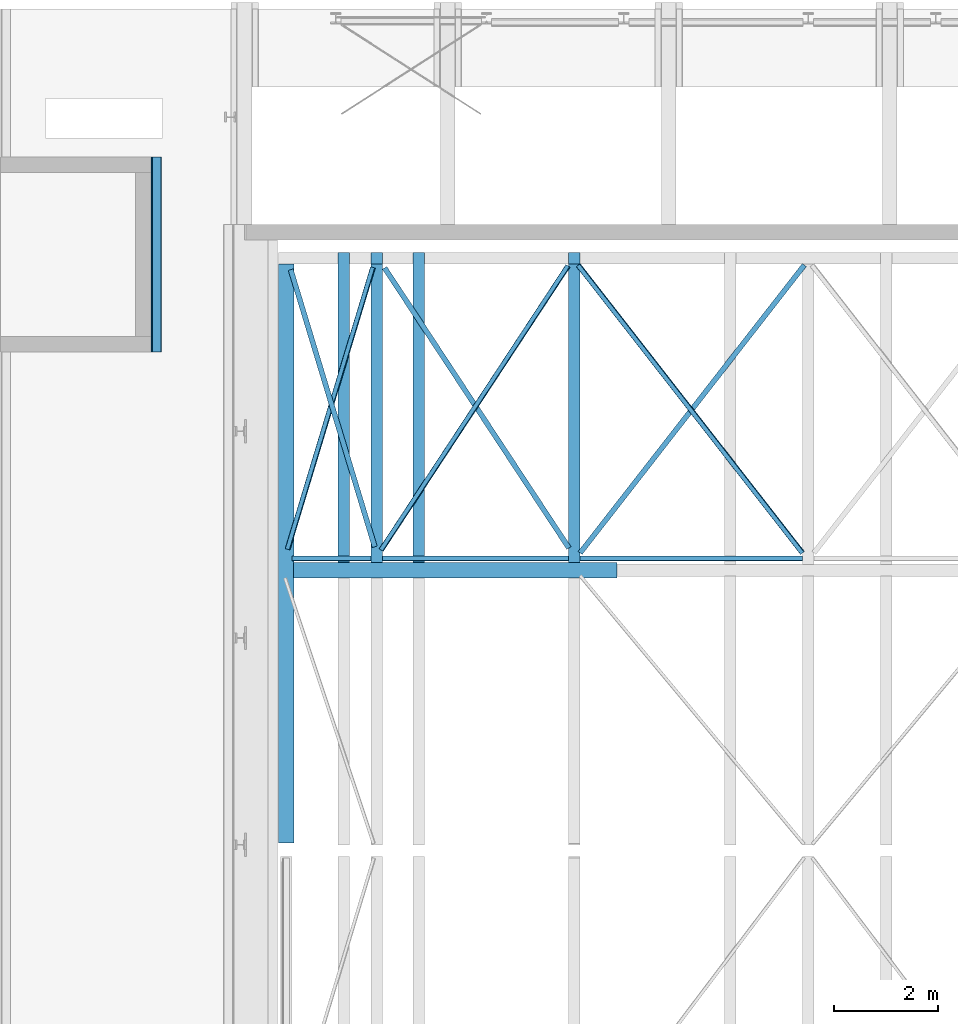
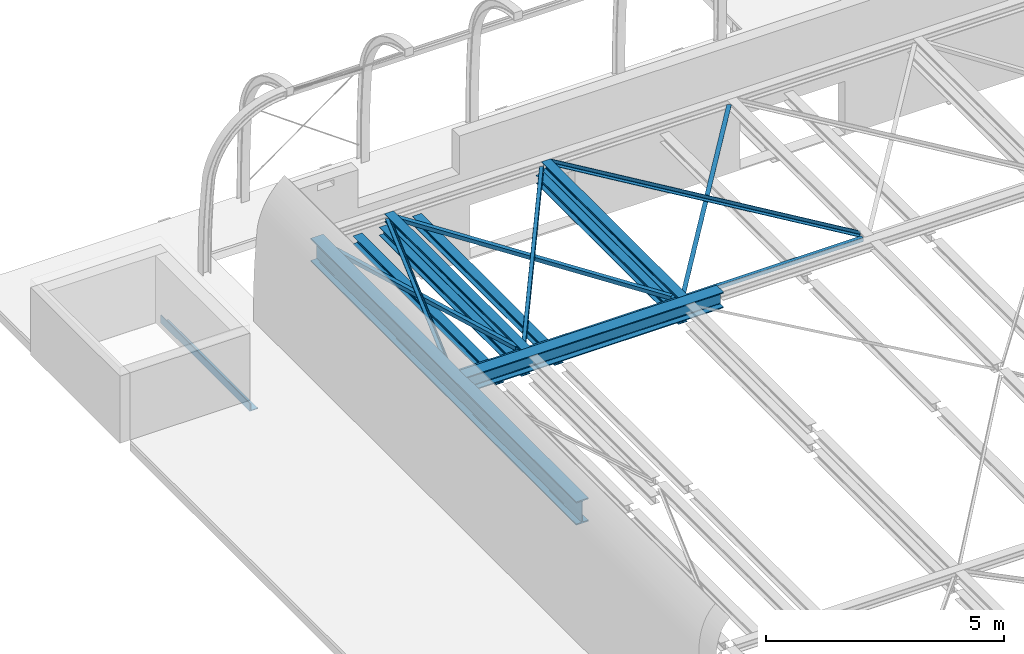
# One storey, part 15 of 38: 18 beams.
"""IFC2X3 building model written with IfcOpenShell, lengths in millimetres."""

from ifc_helpers import new_model, entity, si_unit, converted_unit, derived_unit, direction, frame, frame_2d, origin, place, context, subcontext, project, spatial, polyline, circle_curve, parameter, trimmed, segment, composite_curve, i_section, outline, extrude, material, type_object, element, save


model = new_model("IFC2X3")

# Units and contexts
model_context = context("Model", 3, precision=0.01, world=origin(), true_north=direction((6.12303176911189e-17, 1.0)))
body_context = subcontext(model_context, "Body", "Model", "MODEL_VIEW")
ifc_project = project(units=[si_unit("LENGTHUNIT", "METRE", prefix="MILLI"), si_unit("AREAUNIT", "SQUARE_METRE", prefix="MILLI"), si_unit("VOLUMEUNIT", "CUBIC_METRE"), converted_unit("PLANEANGLEUNIT", "DEGREE", entity("IfcRatioMeasure", 0.0174532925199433), si_unit("PLANEANGLEUNIT", "RADIAN"), dimensions=[0, 0, 0, 0, 0, 0, 0]), si_unit("MASSUNIT", "GRAM", prefix="KILO"), derived_unit("MASSDENSITYUNIT", [(si_unit("MASSUNIT", "GRAM", prefix="KILO"), 1), (si_unit("LENGTHUNIT", "METRE"), -3)]), derived_unit("MOMENTOFINERTIAUNIT", [(si_unit("LENGTHUNIT", "METRE"), 4)]), si_unit("TIMEUNIT", "SECOND"), si_unit("FREQUENCYUNIT", "HERTZ"), si_unit("THERMODYNAMICTEMPERATUREUNIT", "DEGREE_CELSIUS"), derived_unit("THERMALTRANSMITTANCEUNIT", [(si_unit("MASSUNIT", "GRAM", prefix="KILO"), 1), (si_unit("THERMODYNAMICTEMPERATUREUNIT", "KELVIN"), -1), (si_unit("TIMEUNIT", "SECOND"), -3)]), derived_unit("VOLUMETRICFLOWRATEUNIT", [(si_unit("LENGTHUNIT", "METRE"), 3), (si_unit("TIMEUNIT", "SECOND"), -1)]), si_unit("ELECTRICCURRENTUNIT", "AMPERE"), si_unit("ELECTRICVOLTAGEUNIT", "VOLT"), si_unit("POWERUNIT", "WATT"), si_unit("FORCEUNIT", "NEWTON", prefix="KILO"), si_unit("ILLUMINANCEUNIT", "LUX"), si_unit("LUMINOUSFLUXUNIT", "LUMEN"), si_unit("LUMINOUSINTENSITYUNIT", "CANDELA"), derived_unit("USERDEFINED", [(si_unit("MASSUNIT", "GRAM", prefix="KILO"), -1), (si_unit("LENGTHUNIT", "METRE"), -2), (si_unit("TIMEUNIT", "SECOND"), 3), (si_unit("LUMINOUSFLUXUNIT", "LUMEN"), 1)]), derived_unit("LINEARVELOCITYUNIT", [(si_unit("LENGTHUNIT", "METRE"), 1), (si_unit("TIMEUNIT", "SECOND"), -1)]), si_unit("PRESSUREUNIT", "PASCAL"), derived_unit("USERDEFINED", [(si_unit("LENGTHUNIT", "METRE"), -2), (si_unit("MASSUNIT", "GRAM", prefix="KILO"), 1), (si_unit("TIMEUNIT", "SECOND"), -2)]), derived_unit("LINEARFORCEUNIT", [(si_unit("MASSUNIT", "GRAM", prefix="KILO"), 1), (si_unit("LENGTHUNIT", "METRE"), 1), (si_unit("TIMEUNIT", "SECOND"), -2), (si_unit("LENGTHUNIT", "METRE"), -1)]), derived_unit("PLANARFORCEUNIT", [(si_unit("MASSUNIT", "GRAM", prefix="KILO"), 1), (si_unit("LENGTHUNIT", "METRE"), 1), (si_unit("TIMEUNIT", "SECOND"), -2), (si_unit("LENGTHUNIT", "METRE"), -2)])], contexts=[model_context])

# Site, building, storey
site_placement = place(None, origin())
site = spatial("IfcSite", under=ifc_project, at=site_placement, Name="Theater aan de Parade", CompositionType="ELEMENT")
building_placement = place(site_placement, origin())
building = spatial("IfcBuilding", under=site, at=building_placement, Name="Theater aan de Parade", CompositionType="ELEMENT")
storey_placement = place(building_placement, frame((0.0, 0.0, 12480.0)))
storey = spatial("IfcBuildingStorey", under=building, at=storey_placement, Name="03 derde verdieping", CompositionType="ELEMENT", Elevation=12480.0)

# Beams
ifc_material = material(Name="00_PBT_MAT_staal_S355")
beam_type_1 = type_object("IfcBeamType", Name="28_PBT_SF_staal_H-profiel:S355_HE220A", PredefinedType="NOTDEFINED")
beam_1_placement = place(storey_placement, frame((17801.8563463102, 40813.3083270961, 1930.0), z_axis=(0.0, 0.0, 1.0), x_axis=(0.0, -1.0, 0.0)))
element("IfcBeam", 1, at=beam_1_placement, inside=storey, type_object=beam_type_1, material=ifc_material, Name="28_PBT_SF_staal_H-profiel:S355_HE220A", ObjectType="28_PBT_SF_staal_H-profiel:S355_HE220A", context=body_context, shape_type="SweptSolid", body=[
    extrude(i_section(OverallWidth=220.0, OverallDepth=210.0, WebThickness=7.00000000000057, FlangeThickness=10.9999999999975, FilletRadius=18.0000000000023, at=frame_2d((0.0, -1.08002495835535e-12), x_axis=(0.0, 1.0))), frame((0.0, 0.0, -105.0), z_axis=(1.0, 0.0, 0.0), x_axis=(0.0, 0.0, -1.0)), (0.0, 0.0, 1.0), 5745.01602859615),
])
beam_2_placement = place(storey_placement, frame((21603.8563463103, 40813.3083270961, 1930.0), z_axis=(0.0, 0.0, 1.0), x_axis=(0.0, -1.0, 0.0)))
element("IfcBeam", 2, at=beam_2_placement, inside=storey, type_object=beam_type_1, material=ifc_material, Name="28_PBT_SF_staal_H-profiel:S355_HE220A", ObjectType="28_PBT_SF_staal_H-profiel:S355_HE220A", context=body_context, shape_type="SweptSolid", body=[
    extrude(i_section(OverallWidth=220.000000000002, OverallDepth=210.0, WebThickness=7.00000000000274, FlangeThickness=10.9999999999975, FilletRadius=18.0000000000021, at=frame_2d((0.0, 2.16715534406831e-12), x_axis=(0.0, 1.0))), frame((0.0, 0.0, -105.0), z_axis=(1.0, 0.0, 0.0), x_axis=(0.0, 0.0, -1.0)), (0.0, 0.0, 1.0), 5745.01602859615),
])
beam_3_placement = place(storey_placement, frame((18603.8563463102, 41033.3083270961, 1930.0), z_axis=(0.0, 0.0, 1.0), x_axis=(0.0, -1.0, 0.0)))
element("IfcBeam", 3, at=beam_3_placement, inside=storey, type_object=beam_type_1, material=ifc_material, Name="28_PBT_SF_staal_H-profiel:S355_HE220A", ObjectType="28_PBT_SF_staal_H-profiel:S355_HE220A", context=body_context, shape_type="SweptSolid", body=[
    extrude(i_section(OverallWidth=220.0, OverallDepth=210.0, WebThickness=7.00000000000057, FlangeThickness=10.9999999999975, FilletRadius=18.0000000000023, at=frame_2d((-2.16715534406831e-12, 3.24718030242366e-12), x_axis=(0.0, 1.0))), frame((0.0, 0.0, -585.0), z_axis=(1.0, 0.0, 0.0), x_axis=(0.0, 0.0, -1.0)), (0.0, 0.0, 1.0), 5965.01602859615),
])
beam_4_placement = place(storey_placement, frame((17163.8569463, 41033.3083270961, 1930.0), z_axis=(0.0, 0.0, 1.0), x_axis=(0.0, -1.0, 0.0)))
element("IfcBeam", 4, at=beam_4_placement, inside=storey, type_object=beam_type_1, material=ifc_material, Name="28_PBT_SF_staal_H-profiel:S355_HE220A", ObjectType="28_PBT_SF_staal_H-profiel:S355_HE220A", context=body_context, shape_type="SweptSolid", body=[
    extrude(i_section(OverallWidth=220.0, OverallDepth=210.0, WebThickness=7.00000000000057, FlangeThickness=10.9999999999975, FilletRadius=18.0000000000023, at=frame_2d((-2.16715534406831e-12, 1.08002495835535e-12), x_axis=(0.0, 1.0))), frame((0.0, 0.0, -585.0), z_axis=(1.0, 0.0, 0.0), x_axis=(0.0, 0.0, -1.0)), (0.0, 0.0, 1.0), 5965.01602859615),
])
beam_5_placement = place(storey_placement, frame((17801.8563463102, 35068.2922984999, 1930.0), z_axis=(0.0, 0.0, 1.0), x_axis=(0.0, 1.0, 0.0)))
element("IfcBeam", 5, at=beam_5_placement, inside=storey, type_object=beam_type_1, material=ifc_material, Name="28_PBT_SF_staal_H-profiel:S355_HE220A", ObjectType="28_PBT_SF_staal_H-profiel:S355_HE220A", context=body_context, shape_type="SweptSolid", body=[
    extrude(outline(composite_curve([segment(polyline([(94.0, -110.0), (105.0, -110.0)]), True, "CONTINUOUS"), segment(polyline([(105.0, -110.0), (105.0, 110.0)]), True, "CONTINUOUS"), segment(polyline([(105.0, 110.0), (94.0, 110.0)]), True, "CONTINUOUS"), segment(polyline([(94.0, 110.0), (94.0, 21.4999999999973)]), True, "CONTINUOUS"), segment(trimmed(circle_curve(frame_2d((76.0, 21.4999999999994), x_axis=(1.0, 0.0)), 18.0000000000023), [parameter(270.000000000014)], [parameter(0.0)], True, "PARAMETER"), False, "CONTINUOUS"), segment(polyline([(76.0, 3.49999999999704), (-76.0, 3.49999999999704)]), True, "CONTINUOUS"), segment(trimmed(circle_curve(frame_2d((-76.0, 21.4999999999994), x_axis=(0.0, -1.0)), 18.0000000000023), [parameter(270.000000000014)], [parameter(0.0)], True, "PARAMETER"), False, "CONTINUOUS"), segment(polyline([(-94.0, 21.4999999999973), (-94.0, 110.0)]), True, "CONTINUOUS"), segment(polyline([(-94.0, 110.0), (-105.0, 110.0)]), True, "CONTINUOUS"), segment(polyline([(-105.0, 110.0), (-105.0, -110.0)]), True, "CONTINUOUS"), segment(polyline([(-105.0, -110.0), (-94.0, -110.0)]), True, "CONTINUOUS"), segment(polyline([(-94.0, -110.0), (-94.0, -21.5000000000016)]), True, "CONTINUOUS"), segment(trimmed(circle_curve(frame_2d((-76.0, -21.5000000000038), x_axis=(-1.0, 0.0)), 18.0000000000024), [parameter(270.000000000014)], [parameter(0.0)], True, "PARAMETER"), False, "CONTINUOUS"), segment(polyline([(-76.0, -3.50000000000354), (76.0, -3.50000000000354)]), True, "CONTINUOUS"), segment(trimmed(circle_curve(frame_2d((76.0, -21.5000000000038), x_axis=(0.0, 1.0)), 18.0000000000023), [parameter(270.000000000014)], [parameter(0.0)], True, "PARAMETER"), False, "CONTINUOUS"), segment(polyline([(94.0, -21.5000000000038), (94.0, -110.0)]), True, "CONTINUOUS")], self_intersect=False)), frame((0.0, 0.0, -585.0), z_axis=(1.0, 0.0, 0.0), x_axis=(0.0, 0.0, -1.0)), (0.0, 0.0, 1.0), 5965.01602859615),
])
beam_6_placement = place(storey_placement, frame((21603.8563463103, 41033.3083270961, 1930.0), z_axis=(0.0, 0.0, 1.0), x_axis=(0.0, -1.0, 0.0)))
element("IfcBeam", 6, at=beam_6_placement, inside=storey, type_object=beam_type_1, material=ifc_material, Name="28_PBT_SF_staal_H-profiel:S355_HE220A", ObjectType="28_PBT_SF_staal_H-profiel:S355_HE220A", context=body_context, shape_type="SweptSolid", body=[
    extrude(i_section(OverallWidth=220.000000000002, OverallDepth=210.0, WebThickness=7.00000000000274, FlangeThickness=10.9999999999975, FilletRadius=18.0000000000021, at=frame_2d((0.0, -2.16715534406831e-12), x_axis=(0.0, 1.0))), frame((0.0, 0.0, -585.0), z_axis=(1.0, 0.0, 0.0), x_axis=(0.0, 0.0, -1.0)), (0.0, 0.0, 1.0), 5965.01602859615),
])
beam_type_2 = type_object("IfcBeamType", Name="28_PBT_SF_staal_H-profiel:S355_HE600B", PredefinedType="NOTDEFINED")
beam_7_placement = place(storey_placement, frame((16053.8570032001, 29658.2922984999, 1930.0), z_axis=(0.0, 0.0, 1.0), x_axis=(0.0, 1.0, 0.0)))
element("IfcBeam", 7, at=beam_7_placement, inside=storey, type_object=beam_type_2, material=ifc_material, Name="28_PBT_SF_staal_H-profiel:S355_HE600B", ObjectType="28_PBT_SF_staal_H-profiel:S355_HE600B", context=body_context, shape_type="SweptSolid", body=[
    extrude(outline(composite_curve([segment(polyline([(270.0, -150.0), (300.0, -150.0)]), True, "CONTINUOUS"), segment(polyline([(300.0, -150.0), (300.0, 150.0)]), True, "CONTINUOUS"), segment(polyline([(300.0, 150.0), (270.0, 150.0)]), True, "CONTINUOUS"), segment(polyline([(270.0, 150.0), (270.0, 34.7500000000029)]), True, "CONTINUOUS"), segment(trimmed(circle_curve(frame_2d((243.0, 34.7500000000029), x_axis=(1.0, 0.0)), 27.0000000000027), [parameter(270.000000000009)], [parameter(0.0)], True, "PARAMETER"), False, "CONTINUOUS"), segment(polyline([(243.0, 7.75000000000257), (-243.0, 7.75000000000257)]), True, "CONTINUOUS"), segment(trimmed(circle_curve(frame_2d((-243.0, 34.7500000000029), x_axis=(0.0, -1.0)), 27.0000000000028), [parameter(270.000000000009)], [parameter(0.0)], True, "PARAMETER"), False, "CONTINUOUS"), segment(polyline([(-270.0, 34.7500000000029), (-270.0, 150.0)]), True, "CONTINUOUS"), segment(polyline([(-270.0, 150.0), (-300.0, 150.0)]), True, "CONTINUOUS"), segment(polyline([(-300.0, 150.0), (-300.0, -150.0)]), True, "CONTINUOUS"), segment(polyline([(-300.0, -150.0), (-270.0, -150.0)]), True, "CONTINUOUS"), segment(polyline([(-270.0, -150.0), (-270.0, -34.7499999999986)]), True, "CONTINUOUS"), segment(trimmed(circle_curve(frame_2d((-243.0, -34.7500000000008), x_axis=(-1.0, 0.0)), 27.0000000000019), [parameter(270.000000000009)], [parameter(0.0)], True, "PARAMETER"), False, "CONTINUOUS"), segment(polyline([(-243.0, -7.74999999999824), (243.0, -7.74999999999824)]), True, "CONTINUOUS"), segment(trimmed(circle_curve(frame_2d((243.0, -34.7500000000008), x_axis=(0.0, 1.0)), 27.0000000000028), [parameter(270.000000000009)], [parameter(0.0)], True, "PARAMETER"), False, "CONTINUOUS"), segment(polyline([(270.0, -34.7499999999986), (270.0, -150.0)]), True, "CONTINUOUS")], self_intersect=False)), frame((12.7000006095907, 0.0, -300.0), z_axis=(1.0, 0.0, 0.0), x_axis=(0.0, 0.0, -1.0)), (0.0, 0.0, 1.0), 11142.3160279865),
])
beam_type_3 = type_object("IfcBeamType", Name="28_PBT_SF_staal_L-profiel:S355_L200x200x20", PredefinedType="NOTDEFINED")
beam_8_placement = place(storey_placement, frame((13511.6570025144, 42870.0, 0.0), z_axis=(0.0, 0.0, 1.0), x_axis=(0.0, -1.0, 0.0)))
element("IfcBeam", 8, at=beam_8_placement, inside=storey, type_object=beam_type_3, material=ifc_material, Name="28_PBT_SF_staal_L-profiel:S355_L200x200x20", ObjectType="28_PBT_SF_staal_L-profiel:S355_L200x200x20", context=body_context, shape_type="SweptSolid", body=[
    extrude(outline(composite_curve([segment(polyline([(-124.444444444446, -75.5555555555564), (75.5555555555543, -75.5555555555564)]), True, "CONTINUOUS"), segment(polyline([(75.5555555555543, -75.5555555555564), (75.5555555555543, 124.444444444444)]), True, "CONTINUOUS"), segment(polyline([(75.5555555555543, 124.444444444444), (64.5555555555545, 124.444444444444)]), True, "CONTINUOUS"), segment(trimmed(circle_curve(frame_2d((64.5555555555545, 115.444444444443), x_axis=(0.0, 1.0)), 9.00000000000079), [parameter(0.0)], [parameter(90.0000000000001)], True, "PARAMETER"), True, "CONTINUOUS"), segment(polyline([(55.5555555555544, 115.444444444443), (55.5555555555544, -37.5555555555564)]), True, "CONTINUOUS"), segment(trimmed(circle_curve(frame_2d((37.555555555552, -37.5555555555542), x_axis=(1.0, 0.0)), 18.0000000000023), [parameter(270.000000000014)], [parameter(0.0)], True, "PARAMETER"), False, "CONTINUOUS"), segment(polyline([(37.5555555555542, -55.5555555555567), (-115.444444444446, -55.5555555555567)]), True, "CONTINUOUS"), segment(trimmed(circle_curve(frame_2d((-115.444444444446, -64.5555555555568), x_axis=(0.0, 1.0)), 8.99999999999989), [parameter(0.0)], [parameter(90.0000000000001)], True, "PARAMETER"), True, "CONTINUOUS"), segment(polyline([(-124.444444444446, -64.5555555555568), (-124.444444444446, -75.5555555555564)]), True, "CONTINUOUS")], self_intersect=False)), frame((0.0, 18.7555555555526, -549.444444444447), z_axis=(1.0, 0.0, 0.0), x_axis=(0.0, 0.0, -1.0)), (0.0, 0.0, 1.0), 3750.00000002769),
])
beam_type_4 = type_object("IfcBeamType", Name="28_PBT_SF_staal_L-profiel:S355_L100x100x10", PredefinedType="NOTDEFINED")
beam_9_placement = place(storey_placement, frame((26103.8570025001, 35146.2906196, 1930.0), z_axis=(0.0, 0.0, 1.0), x_axis=(-0.614515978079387, 0.788904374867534, 0.0)))
element("IfcBeam", 9, at=beam_9_placement, inside=storey, type_object=beam_type_4, material=ifc_material, Name="28_PBT_SF_staal_L-profiel:S355_L100x100x10", ObjectType="28_PBT_SF_staal_L-profiel:S355_L100x100x10", context=body_context, shape_type="SweptSolid", body=[
    extrude(outline(composite_curve([segment(polyline([(-62.2222222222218, -37.777777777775), (37.7777777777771, -37.777777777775)]), True, "CONTINUOUS"), segment(polyline([(37.7777777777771, -37.777777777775), (37.7777777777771, 62.2222222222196)]), True, "CONTINUOUS"), segment(polyline([(37.7777777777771, 62.222222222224), (33.777777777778, 62.2222222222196)]), True, "CONTINUOUS"), segment(trimmed(circle_curve(frame_2d((33.777777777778, 56.222222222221), x_axis=(0.0, 1.0)), 5.99999999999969), [parameter(0.0)], [parameter(90.0000000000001)], True, "PARAMETER"), True, "CONTINUOUS"), segment(polyline([(27.7777777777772, 56.222222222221), (27.7777777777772, -15.7777777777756)]), True, "CONTINUOUS"), segment(trimmed(circle_curve(frame_2d((15.77777777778, -15.77777777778), x_axis=(1.0, 0.0)), 11.9999999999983), [parameter(269.99999999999)], [parameter(0.0)], True, "PARAMETER"), False, "CONTINUOUS"), segment(polyline([(15.7777777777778, -27.7777777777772), (-56.2222222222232, -27.7777777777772)]), True, "CONTINUOUS"), segment(trimmed(circle_curve(frame_2d((-56.2222222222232, -33.7777777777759), x_axis=(0.0, 1.0)), 5.99999999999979), [parameter(0.0)], [parameter(90.0000000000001)], True, "PARAMETER"), True, "CONTINUOUS"), segment(polyline([(-62.2222222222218, -33.7777777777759), (-62.2222222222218, -37.777777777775)]), True, "CONTINUOUS")], self_intersect=False)), frame((150.0, 9.57777777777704, -67.2222222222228), z_axis=(1.0, 0.0, 0.0), x_axis=(0.0, 0.0, -1.0)), (0.0, 0.0, 1.0), 7022.83644448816),
])
beam_10_placement = place(storey_placement, frame((21603.8563463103, 35146.2906196, 1930.0), z_axis=(0.0, 0.0, 1.0), x_axis=(0.614516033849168, 0.788904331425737, 0.0)))
element("IfcBeam", 10, at=beam_10_placement, inside=storey, type_object=beam_type_4, material=ifc_material, Name="28_PBT_SF_staal_L-profiel:S355_L100x100x10", ObjectType="28_PBT_SF_staal_L-profiel:S355_L100x100x10", context=body_context, shape_type="SweptSolid", body=[
    extrude(outline(composite_curve([segment(polyline([(-37.777777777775, -62.2222222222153), (-33.7777777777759, -62.2222222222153)]), True, "CONTINUOUS"), segment(trimmed(circle_curve(frame_2d((-33.7777777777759, -56.222222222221), x_axis=(0.0, -1.0)), 5.99999999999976), [parameter(0.0)], [parameter(90.0000000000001)], True, "PARAMETER"), True, "CONTINUOUS"), segment(polyline([(-27.7777777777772, -56.222222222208), (-27.7777777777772, 15.777777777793)]), True, "CONTINUOUS"), segment(trimmed(circle_curve(frame_2d((-15.77777777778, 15.777777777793), x_axis=(-1.0, 0.0)), 11.9999999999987), [parameter(269.99999999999)], [parameter(0.0)], True, "PARAMETER"), False, "CONTINUOUS"), segment(polyline([(-15.7777777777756, 27.7777777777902), (56.2222222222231, 27.7777777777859)]), True, "CONTINUOUS"), segment(trimmed(circle_curve(frame_2d((56.2222222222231, 33.7777777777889), x_axis=(0.0, -1.0)), 5.99999999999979), [parameter(0.0)], [parameter(90.0000000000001)], True, "PARAMETER"), True, "CONTINUOUS"), segment(polyline([(62.2222222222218, 33.7777777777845), (62.2222222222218, 37.7777777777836)]), True, "CONTINUOUS"), segment(polyline([(62.2222222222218, 37.777777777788), (-37.7777777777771, 37.7777777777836)]), True, "CONTINUOUS"), segment(polyline([(-37.7777777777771, 37.777777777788), (-37.7777777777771, -62.2222222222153)]), True, "CONTINUOUS")], self_intersect=False)), frame((150.0, -9.57777777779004, -144.577777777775), z_axis=(1.0, 0.0, 0.0), x_axis=(0.0, 0.0, -1.0)), (0.0, 0.0, 1.0), 7022.83684772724),
])
beam_11_placement = place(storey_placement, frame((21603.8563463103, 40923.3083270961, 1930.0), z_axis=(0.0, 0.0, 1.0), x_axis=(-0.549397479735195, -0.835561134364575, 0.0)))
element("IfcBeam", 11, at=beam_11_placement, inside=storey, type_object=beam_type_4, material=ifc_material, Name="28_PBT_SF_staal_L-profiel:S355_L100x100x10", ObjectType="28_PBT_SF_staal_L-profiel:S355_L100x100x10", context=body_context, shape_type="SweptSolid", body=[
    extrude(outline(composite_curve([segment(polyline([(33.777777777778, -62.222222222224), (37.7777777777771, -62.222222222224)]), True, "CONTINUOUS"), segment(polyline([(37.7777777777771, -62.222222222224), (37.7777777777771, 37.777777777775)]), True, "CONTINUOUS"), segment(polyline([(37.7777777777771, 37.777777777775), (-62.2222222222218, 37.777777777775)]), True, "CONTINUOUS"), segment(polyline([(-62.2222222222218, 37.7777777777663), (-62.2222222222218, 33.7777777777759)]), True, "CONTINUOUS"), segment(trimmed(circle_curve(frame_2d((-56.2222222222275, 33.7777777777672), x_axis=(-1.0, 0.0)), 5.99999999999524), [parameter(0.0)], [parameter(90.000000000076)], True, "PARAMETER"), True, "CONTINUOUS"), segment(polyline([(-56.2222222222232, 27.7777777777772), (15.7777777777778, 27.7777777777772)]), True, "CONTINUOUS"), segment(trimmed(circle_curve(frame_2d((15.7777777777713, 15.7777777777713), x_axis=(0.0, 1.0)), 12.000000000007), [parameter(270.000000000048)], [parameter(0.0)], True, "PARAMETER"), False, "CONTINUOUS"), segment(polyline([(27.7777777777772, 15.7777777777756), (27.7777777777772, -56.2222222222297)]), True, "CONTINUOUS"), segment(trimmed(circle_curve(frame_2d((33.7777777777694, -56.222222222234), x_axis=(-1.0, 0.0)), 5.9999999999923), [parameter(0.0)], [parameter(90.0000000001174)], True, "PARAMETER"), True, "CONTINUOUS")], self_intersect=False)), frame((190.660842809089, -9.57777777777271, -67.2222222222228), z_axis=(1.0, 0.0, 0.0), x_axis=(0.0, 0.0, -1.0)), (0.0, 0.0, 1.0), 6547.32521100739),
])
beam_12_placement = place(storey_placement, frame((17801.8563463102, 40923.3083270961, 1930.0), z_axis=(0.0, 0.0, 1.0), x_axis=(0.549750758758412, -0.835328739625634, 0.0)))
element("IfcBeam", 12, at=beam_12_placement, inside=storey, type_object=beam_type_4, material=ifc_material, Name="28_PBT_SF_staal_L-profiel:S355_L100x100x10", ObjectType="28_PBT_SF_staal_L-profiel:S355_L100x100x10", context=body_context, shape_type="SweptSolid", body=[
    extrude(outline(composite_curve([segment(polyline([(-37.7777777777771, -37.7777777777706), (62.2222222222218, -37.7777777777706)]), True, "CONTINUOUS"), segment(polyline([(62.2222222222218, -37.7777777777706), (62.2222222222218, -33.7777777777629)]), True, "CONTINUOUS"), segment(trimmed(circle_curve(frame_2d((56.2222222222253, -33.7777777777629), x_axis=(1.0, 0.0)), 5.99999999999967), [parameter(0.0)], [parameter(90.0000000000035)], True, "PARAMETER"), True, "CONTINUOUS"), segment(polyline([(56.2222222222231, -27.7777777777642), (-15.7777777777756, -27.7777777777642)]), True, "CONTINUOUS"), segment(trimmed(circle_curve(frame_2d((-15.77777777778, -15.777777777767), x_axis=(0.0, -1.0)), 11.9999999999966), [parameter(269.999999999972)], [parameter(0.0)], True, "PARAMETER"), False, "CONTINUOUS"), segment(polyline([(-27.7777777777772, -15.7777777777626), (-27.7777777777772, 56.2222222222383)]), True, "CONTINUOUS"), segment(trimmed(circle_curve(frame_2d((-33.7777777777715, 56.2222222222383), x_axis=(1.0, 0.0)), 5.99999999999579), [parameter(0.0)], [parameter(90.0000000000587)], True, "PARAMETER"), True, "CONTINUOUS"), segment(polyline([(-33.7777777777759, 62.222222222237), (-37.777777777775, 62.2222222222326)]), True, "CONTINUOUS"), segment(polyline([(-37.7777777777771, 62.222222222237), (-37.7777777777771, -37.7777777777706)]), True, "CONTINUOUS")], self_intersect=False)), frame((235.529860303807, 9.57777777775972, -144.577777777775), z_axis=(1.0, 0.0, 0.0), x_axis=(0.0, 0.0, -1.0)), (0.0, 0.0, 1.0), 6454.54412103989),
])
beam_13_placement = place(storey_placement, frame((17801.8563463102, 40923.3083270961, 1930.0), z_axis=(0.0, 0.0, 1.0), x_axis=(-0.289610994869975, -0.957144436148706, 0.0)))
element("IfcBeam", 13, at=beam_13_placement, inside=storey, type_object=beam_type_4, material=ifc_material, Name="28_PBT_SF_staal_L-profiel:S355_L100x100x10", ObjectType="28_PBT_SF_staal_L-profiel:S355_L100x100x10", context=body_context, shape_type="SweptSolid", body=[
    extrude(outline(composite_curve([segment(polyline([(33.777777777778, -62.222222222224), (37.7777777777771, -62.222222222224)]), True, "CONTINUOUS"), segment(polyline([(37.7777777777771, -62.222222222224), (37.7777777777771, 37.7777777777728)]), True, "CONTINUOUS"), segment(polyline([(37.7777777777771, 37.7777777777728), (-62.2222222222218, 37.7777777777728)]), True, "CONTINUOUS"), segment(polyline([(-62.2222222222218, 37.777777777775), (-62.2222222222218, 33.7777777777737)]), True, "CONTINUOUS"), segment(trimmed(circle_curve(frame_2d((-56.2222222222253, 33.7777777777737), x_axis=(-1.0, 0.0)), 5.99999999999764), [parameter(0.0)], [parameter(90.0000000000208)], True, "PARAMETER"), True, "CONTINUOUS"), segment(polyline([(-56.2222222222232, 27.7777777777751), (15.7777777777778, 27.7777777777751)]), True, "CONTINUOUS"), segment(trimmed(circle_curve(frame_2d((15.7777777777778, 15.7777777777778), x_axis=(0.0, 1.0)), 11.9999999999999), [parameter(270.0)], [parameter(0.0)], True, "PARAMETER"), False, "CONTINUOUS"), segment(polyline([(27.7777777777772, 15.7777777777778), (27.7777777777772, -56.2222222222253)]), True, "CONTINUOUS"), segment(trimmed(circle_curve(frame_2d((33.777777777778, -56.2222222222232), x_axis=(-1.0, 0.0)), 6.00000000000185), [parameter(0.0)], [parameter(89.9999999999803)], True, "PARAMETER"), True, "CONTINUOUS")], self_intersect=False)), frame((190.660842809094, -9.57777777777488, -67.2222222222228), z_axis=(1.0, 0.0, 0.0), x_axis=(0.0, 0.0, -1.0)), (0.0, 0.0, 1.0), 5669.0676003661),
])
beam_14_placement = place(storey_placement, frame((16053.8570032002, 40923.3083270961, 1930.0), z_axis=(0.0, 0.0, 1.0), x_axis=(0.290142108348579, -0.95698357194, 0.0)))
element("IfcBeam", 14, at=beam_14_placement, inside=storey, type_object=beam_type_4, material=ifc_material, Name="28_PBT_SF_staal_L-profiel:S355_L100x100x10", ObjectType="28_PBT_SF_staal_L-profiel:S355_L100x100x10", context=body_context, shape_type="SweptSolid", body=[
    extrude(outline(composite_curve([segment(polyline([(-37.7777777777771, -37.7777777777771), (62.2222222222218, -37.7777777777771)]), True, "CONTINUOUS"), segment(polyline([(62.2222222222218, -37.7777777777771), (62.2222222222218, -33.777777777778)]), True, "CONTINUOUS"), segment(trimmed(circle_curve(frame_2d((56.2222222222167, -33.7777777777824), x_axis=(1.0, 0.0)), 6.00000000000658), [parameter(0.0)], [parameter(89.9999999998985)], True, "PARAMETER"), True, "CONTINUOUS"), segment(polyline([(56.2222222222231, -27.7777777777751), (-15.7777777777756, -27.7777777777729)]), True, "CONTINUOUS"), segment(trimmed(circle_curve(frame_2d((-15.77777777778, -15.7777777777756), x_axis=(0.0, -1.0)), 11.9999999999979), [parameter(269.99999999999)], [parameter(0.0)], True, "PARAMETER"), False, "CONTINUOUS"), segment(polyline([(-27.7777777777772, -15.7777777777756), (-27.7777777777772, 56.2222222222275)]), True, "CONTINUOUS"), segment(trimmed(circle_curve(frame_2d((-33.777777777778, 56.2222222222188), x_axis=(1.0, 0.0)), 6.00000000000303), [parameter(0.0)], [parameter(89.9999999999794)], True, "PARAMETER"), True, "CONTINUOUS"), segment(polyline([(-33.7777777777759, 62.2222222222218), (-37.777777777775, 62.2222222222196)]), True, "CONTINUOUS"), segment(polyline([(-37.7777777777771, 62.2222222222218), (-37.7777777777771, -37.7777777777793)]), True, "CONTINUOUS")], self_intersect=False)), frame((235.529860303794, 9.57777777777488, -144.577777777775), z_axis=(1.0, 0.0, 0.0), x_axis=(0.0, 0.0, -1.0)), (0.0, 0.0, 1.0), 5575.37756890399),
])
beam_type_5 = type_object("IfcBeamType", Name="28_PBT_SF_staal_H-profiel:S355_HE400B", PredefinedType="NOTDEFINED")
beam_15_placement = place(storey_placement, frame((16193.8569884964, 34918.2922984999, 1730.0)))
element("IfcBeam", 15, at=beam_15_placement, inside=storey, type_object=beam_type_5, material=ifc_material, Name="28_PBT_SF_staal_H-profiel:S355_HE400B", ObjectType="28_PBT_SF_staal_H-profiel:S355_HE400B", context=body_context, shape_type="SweptSolid", body=[
    extrude(i_section(OverallWidth=300.000000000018, OverallDepth=400.0, WebThickness=13.4999999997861, FlangeThickness=23.9999999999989, FilletRadius=26.9999999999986, at=frame_2d((-4.33431068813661e-12, 6.49436060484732e-12), x_axis=(0.0, 1.0))), frame((0.0, 0.0, 0.0), z_axis=(1.0, 0.0, 0.0), x_axis=(0.0, 0.0, -1.0)), (0.0, 0.0, 1.0), 6226.0),
])
beam_type_6 = type_object("IfcBeamType", Name="28_PBT_SF_staal_koker:S355_K100x100x8", PredefinedType="NOTDEFINED")
beam_16_placement = place(storey_placement, frame((17911.8563463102, 35146.2906196, 1930.0)))
element("IfcBeam", 16, at=beam_16_placement, inside=storey, type_object=beam_type_6, material=ifc_material, Name="28_PBT_SF_staal_koker:S355_K100x100x8", ObjectType="28_PBT_SF_staal_koker:S355_K100x100x8", context=body_context, shape_type="SweptSolid", body=[
    extrude(outline(composite_curve([segment(polyline([(-38.0, -50.0), (38.0, -50.0)]), True, "CONTINUOUS"), segment(trimmed(circle_curve(frame_2d((38.0, -38.0), x_axis=(0.0, 1.0)), 12.0), [parameter(180.0)], [parameter(270.0)], True, "PARAMETER"), True, "CONTINUOUS"), segment(polyline([(50.0, -38.0), (50.0, 38.0)]), True, "CONTINUOUS"), segment(trimmed(circle_curve(frame_2d((38.0, 38.0), x_axis=(0.0, 1.0)), 12.0), [parameter(270.0)], [parameter(360.0)], True, "PARAMETER"), True, "CONTINUOUS"), segment(polyline([(38.0, 50.0), (-38.0, 50.0)]), True, "CONTINUOUS"), segment(trimmed(circle_curve(frame_2d((-38.0, 38.0), x_axis=(0.0, 1.0)), 12.0), [parameter(0.0)], [parameter(90.0000000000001)], True, "PARAMETER"), True, "CONTINUOUS"), segment(polyline([(-50.0, 38.0), (-50.0, -38.0)]), True, "CONTINUOUS"), segment(trimmed(circle_curve(frame_2d((-38.0, -38.0), x_axis=(0.0, 1.0)), 12.0), [parameter(90.0)], [parameter(180.0)], True, "PARAMETER"), True, "CONTINUOUS")], self_intersect=False), holes=[composite_curve([segment(polyline([(42.0, 34.0), (42.0, -34.0)]), True, "CONTINUOUS"), segment(trimmed(circle_curve(frame_2d((34.0, -34.0), x_axis=(0.0, 1.0)), 8.0), [parameter(180.0)], [parameter(270.0)], True, "PARAMETER"), False, "CONTINUOUS"), segment(polyline([(34.0, -42.0), (-34.0, -42.0)]), True, "CONTINUOUS"), segment(trimmed(circle_curve(frame_2d((-34.0, -34.0), x_axis=(0.0, 1.0)), 8.0), [parameter(90.0)], [parameter(180.0)], True, "PARAMETER"), False, "CONTINUOUS"), segment(polyline([(-42.0, -34.0), (-42.0, 34.0)]), True, "CONTINUOUS"), segment(trimmed(circle_curve(frame_2d((-34.0, 34.0), x_axis=(0.0, 1.0)), 8.0), [parameter(3.56222124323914e-13)], [parameter(90.0000000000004)], True, "PARAMETER"), False, "CONTINUOUS"), segment(polyline([(-34.0, 42.0), (34.0, 42.0)]), True, "CONTINUOUS"), segment(trimmed(circle_curve(frame_2d((34.0, 34.0), x_axis=(0.0, 1.0)), 8.0), [parameter(270.0)], [parameter(5.08888749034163e-14)], True, "PARAMETER"), False, "CONTINUOUS")], self_intersect=False)]), frame((0.0, 0.0, -110.0), z_axis=(1.0, 0.0, 0.0), x_axis=(0.0, 0.0, 1.0)), (0.0, 0.0, 1.0), 3582.00000000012),
])
beam_17_placement = place(storey_placement, frame((21713.8563463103, 35146.2906196, 1930.0)))
element("IfcBeam", 17, at=beam_17_placement, inside=storey, type_object=beam_type_6, material=ifc_material, Name="28_PBT_SF_staal_koker:S355_K100x100x8", ObjectType="28_PBT_SF_staal_koker:S355_K100x100x8", context=body_context, shape_type="SweptSolid", body=[
    extrude(outline(composite_curve([segment(polyline([(-38.0, -50.0), (38.0, -50.0)]), True, "CONTINUOUS"), segment(trimmed(circle_curve(frame_2d((38.0, -38.0), x_axis=(0.0, 1.0)), 12.0), [parameter(180.0)], [parameter(270.0)], True, "PARAMETER"), True, "CONTINUOUS"), segment(polyline([(50.0, -38.0), (50.0, 38.0)]), True, "CONTINUOUS"), segment(trimmed(circle_curve(frame_2d((38.0, 38.0), x_axis=(0.0, 1.0)), 12.0), [parameter(270.0)], [parameter(360.0)], True, "PARAMETER"), True, "CONTINUOUS"), segment(polyline([(38.0, 50.0), (-38.0, 50.0)]), True, "CONTINUOUS"), segment(trimmed(circle_curve(frame_2d((-38.0, 38.0), x_axis=(0.0, 1.0)), 12.0), [parameter(0.0)], [parameter(90.0000000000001)], True, "PARAMETER"), True, "CONTINUOUS"), segment(polyline([(-50.0, 38.0), (-50.0, -38.0)]), True, "CONTINUOUS"), segment(trimmed(circle_curve(frame_2d((-38.0, -38.0), x_axis=(0.0, 1.0)), 12.0), [parameter(90.0)], [parameter(180.0)], True, "PARAMETER"), True, "CONTINUOUS")], self_intersect=False), holes=[composite_curve([segment(polyline([(42.0, 34.0), (42.0, -34.0)]), True, "CONTINUOUS"), segment(trimmed(circle_curve(frame_2d((34.0, -34.0), x_axis=(0.0, 1.0)), 8.0), [parameter(180.0)], [parameter(270.0)], True, "PARAMETER"), False, "CONTINUOUS"), segment(polyline([(34.0, -42.0), (-34.0, -42.0)]), True, "CONTINUOUS"), segment(trimmed(circle_curve(frame_2d((-34.0, -34.0), x_axis=(0.0, 1.0)), 8.0), [parameter(90.0)], [parameter(180.0)], True, "PARAMETER"), False, "CONTINUOUS"), segment(polyline([(-42.0, -34.0), (-42.0, 34.0)]), True, "CONTINUOUS"), segment(trimmed(circle_curve(frame_2d((-34.0, 34.0), x_axis=(0.0, 1.0)), 8.0), [parameter(3.56222124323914e-13)], [parameter(90.0000000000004)], True, "PARAMETER"), False, "CONTINUOUS"), segment(polyline([(-34.0, 42.0), (34.0, 42.0)]), True, "CONTINUOUS"), segment(trimmed(circle_curve(frame_2d((34.0, 34.0), x_axis=(0.0, 1.0)), 8.0), [parameter(270.0)], [parameter(5.08888749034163e-14)], True, "PARAMETER"), False, "CONTINUOUS")], self_intersect=False)]), frame((0.0, 0.0, -110.0), z_axis=(1.0, 0.0, 0.0), x_axis=(0.0, 0.0, 1.0)), (0.0, 0.0, 1.0), 4280.00065618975),
])
beam_18_placement = place(storey_placement, frame((16163.8570032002, 35146.2906196, 1930.0)))
element("IfcBeam", 18, at=beam_18_placement, inside=storey, type_object=beam_type_6, material=ifc_material, Name="28_PBT_SF_staal_koker:S355_K100x100x8", ObjectType="28_PBT_SF_staal_koker:S355_K100x100x8", context=body_context, shape_type="SweptSolid", body=[
    extrude(outline(composite_curve([segment(polyline([(-38.0, -50.0), (38.0, -50.0)]), True, "CONTINUOUS"), segment(trimmed(circle_curve(frame_2d((38.0, -38.0), x_axis=(0.0, 1.0)), 12.0), [parameter(180.0)], [parameter(270.0)], True, "PARAMETER"), True, "CONTINUOUS"), segment(polyline([(50.0, -38.0), (50.0, 38.0)]), True, "CONTINUOUS"), segment(trimmed(circle_curve(frame_2d((38.0, 38.0), x_axis=(0.0, 1.0)), 12.0), [parameter(270.0)], [parameter(360.0)], True, "PARAMETER"), True, "CONTINUOUS"), segment(polyline([(38.0, 50.0), (-38.0, 50.0)]), True, "CONTINUOUS"), segment(trimmed(circle_curve(frame_2d((-38.0, 38.0), x_axis=(0.0, 1.0)), 12.0), [parameter(0.0)], [parameter(90.0000000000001)], True, "PARAMETER"), True, "CONTINUOUS"), segment(polyline([(-50.0, 38.0), (-50.0, -38.0)]), True, "CONTINUOUS"), segment(trimmed(circle_curve(frame_2d((-38.0, -38.0), x_axis=(0.0, 1.0)), 12.0), [parameter(90.0)], [parameter(180.0)], True, "PARAMETER"), True, "CONTINUOUS")], self_intersect=False), holes=[composite_curve([segment(polyline([(42.0, 34.0), (42.0, -34.0)]), True, "CONTINUOUS"), segment(trimmed(circle_curve(frame_2d((34.0, -34.0), x_axis=(0.0, 1.0)), 8.0), [parameter(180.0)], [parameter(270.0)], True, "PARAMETER"), False, "CONTINUOUS"), segment(polyline([(34.0, -42.0), (-34.0, -42.0)]), True, "CONTINUOUS"), segment(trimmed(circle_curve(frame_2d((-34.0, -34.0), x_axis=(0.0, 1.0)), 8.0), [parameter(90.0)], [parameter(180.0)], True, "PARAMETER"), False, "CONTINUOUS"), segment(polyline([(-42.0, -34.0), (-42.0, 34.0)]), True, "CONTINUOUS"), segment(trimmed(circle_curve(frame_2d((-34.0, 34.0), x_axis=(0.0, 1.0)), 8.0), [parameter(3.56222124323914e-13)], [parameter(90.0000000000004)], True, "PARAMETER"), False, "CONTINUOUS"), segment(polyline([(-34.0, 42.0), (34.0, 42.0)]), True, "CONTINUOUS"), segment(trimmed(circle_curve(frame_2d((34.0, 34.0), x_axis=(0.0, 1.0)), 8.0), [parameter(270.0)], [parameter(5.08888749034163e-14)], True, "PARAMETER"), False, "CONTINUOUS")], self_intersect=False)]), frame((0.0, 0.0, -110.0), z_axis=(1.0, 0.0, 0.0), x_axis=(0.0, 0.0, 1.0)), (0.0, 0.0, 1.0), 1527.99934311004),
])

save(model, "model.ifc")
